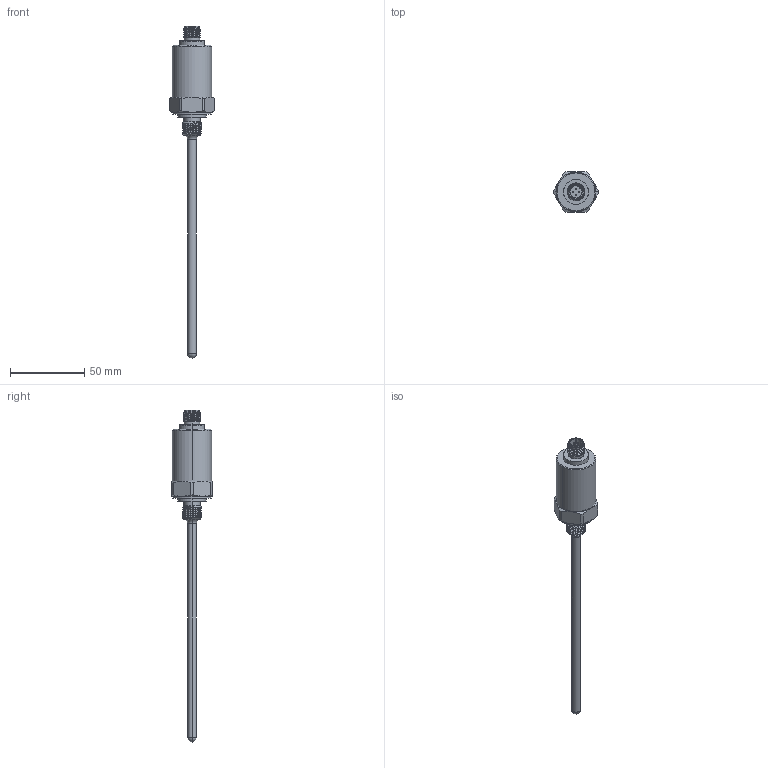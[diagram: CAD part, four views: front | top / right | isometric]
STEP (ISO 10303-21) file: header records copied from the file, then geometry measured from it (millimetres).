
FILE_DESCRIPTION (( 'STEP AP214' ), '1' );
FILE_NAME ('BTS1A54.STEP', '2024-12-03T04:05:42', ( '' ), ( '' ), 'SwSTEP 2.0', 'SolidWorks 2022', '' );
FILE_SCHEMA (( 'AUTOMOTIVE_DESIGN' ));
Length unit declared in the file: millimetre
Products named in the file (1): BTS1A54
Bounding box: 30.18 x 27 x 223.5 mm (x, y, z)
Volume: 33357.3 mm3; surface area: 9858.7 mm2
Topology: 1 solids, 1 shells, 149 faces, 364 edges, 222 vertices
Faces by surface type: cylinder 53, plane 34, cone 26, torus 20, sphere 10, bspline 6
Entity records: 6584 total; most frequent: CARTESIAN_POINT 3024, ORIENTED_EDGE 688, DIRECTION 651, EDGE_CURVE 344, AXIS2_PLACEMENT_3D 280, VERTEX_POINT 212, EDGE_LOOP 164, FACE_OUTER_BOUND 149
